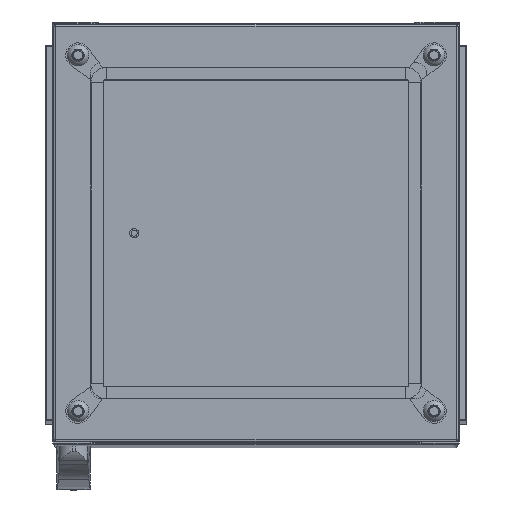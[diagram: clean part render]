
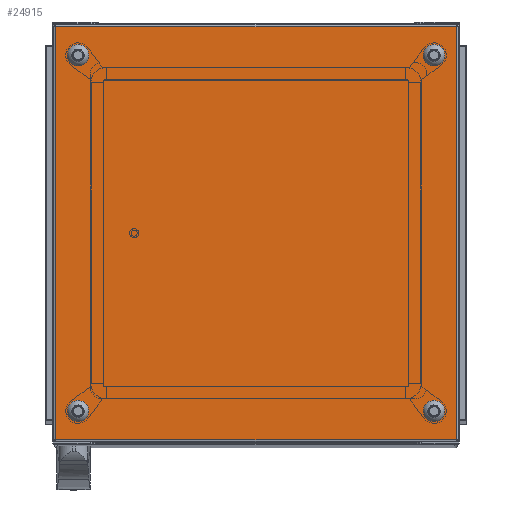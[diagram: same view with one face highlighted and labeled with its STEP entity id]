
A CAD part, top view. The second image highlights one B-rep face of the part: STEP entity #24915.
In plain terms, the highlighted planar face has unit normal (0, 0, 1).
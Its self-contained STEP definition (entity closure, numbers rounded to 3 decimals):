
#1263=CIRCLE('',#26808,6.);
#1264=CIRCLE('',#26809,6.);
#1265=CIRCLE('',#26810,6.);
#1266=CIRCLE('',#26811,6.);
#4891=ORIENTED_EDGE('',*,*,#10709,.F.);
#4892=ORIENTED_EDGE('',*,*,#10710,.F.);
#4893=ORIENTED_EDGE('',*,*,#10711,.F.);
#4894=ORIENTED_EDGE('',*,*,#10712,.F.);
#4895=ORIENTED_EDGE('',*,*,#10698,.T.);
#4896=ORIENTED_EDGE('',*,*,#10706,.T.);
#4897=ORIENTED_EDGE('',*,*,#10669,.F.);
#4898=ORIENTED_EDGE('',*,*,#10713,.F.);
#10669=EDGE_CURVE('',#13813,#13814,#16293,.T.);
#10698=EDGE_CURVE('',#13835,#13834,#16299,.T.);
#10706=EDGE_CURVE('',#13834,#13814,#16304,.T.);
#10709=EDGE_CURVE('',#13836,#13836,#1263,.T.);
#10710=EDGE_CURVE('',#13837,#13837,#1264,.T.);
#10711=EDGE_CURVE('',#13838,#13838,#1265,.T.);
#10712=EDGE_CURVE('',#13839,#13839,#1266,.T.);
#10713=EDGE_CURVE('',#13835,#13813,#16307,.T.);
#13813=VERTEX_POINT('',#39083);
#13814=VERTEX_POINT('',#39085);
#13834=VERTEX_POINT('',#39159);
#13835=VERTEX_POINT('',#39161);
#13836=VERTEX_POINT('',#39178);
#13837=VERTEX_POINT('',#39180);
#13838=VERTEX_POINT('',#39182);
#13839=VERTEX_POINT('',#39184);
#16293=LINE('',#39084,#18478);
#16299=LINE('',#39160,#18484);
#16304=LINE('',#39172,#18489);
#16307=LINE('',#39185,#18492);
#18478=VECTOR('',#31354,1000.);
#18484=VECTOR('',#31408,1000.);
#18489=VECTOR('',#31425,1000.);
#18492=VECTOR('',#31440,1000.);
#20361=EDGE_LOOP('',(#4891));
#20362=EDGE_LOOP('',(#4892));
#20363=EDGE_LOOP('',(#4893));
#20364=EDGE_LOOP('',(#4894));
#20365=EDGE_LOOP('',(#4895,#4896,#4897,#4898));
#22372=FACE_BOUND('',#20361,.T.);
#22373=FACE_BOUND('',#20362,.T.);
#22374=FACE_BOUND('',#20363,.T.);
#22375=FACE_BOUND('',#20364,.T.);
#22376=FACE_BOUND('',#20365,.T.);
#24040=PLANE('',#26807);
#24915=ADVANCED_FACE('',(#22372,#22373,#22374,#22375,#22376),#24040,.T.);
#26807=AXIS2_PLACEMENT_3D('',#39176,#31430,#31431);
#26808=AXIS2_PLACEMENT_3D('',#39177,#31432,#31433);
#26809=AXIS2_PLACEMENT_3D('',#39179,#31434,#31435);
#26810=AXIS2_PLACEMENT_3D('',#39181,#31436,#31437);
#26811=AXIS2_PLACEMENT_3D('',#39183,#31438,#31439);
#31354=DIRECTION('',(-1.,0.,0.));
#31408=DIRECTION('',(-1.,0.,0.));
#31425=DIRECTION('',(0.,-1.,0.));
#31430=DIRECTION('',(0.,0.,1.));
#31431=DIRECTION('',(1.,0.,0.));
#31432=DIRECTION('',(0.,0.,1.));
#31433=DIRECTION('',(1.,0.,0.));
#31434=DIRECTION('',(0.,0.,1.));
#31435=DIRECTION('',(1.,0.,0.));
#31436=DIRECTION('',(0.,0.,1.));
#31437=DIRECTION('',(1.,0.,0.));
#31438=DIRECTION('',(0.,0.,1.));
#31439=DIRECTION('',(1.,0.,0.));
#31440=DIRECTION('',(0.,-1.,0.));
#39083=CARTESIAN_POINT('',(196.5,-202.5,20.));
#39084=CARTESIAN_POINT('',(200.,-202.5,20.));
#39085=CARTESIAN_POINT('',(-196.5,-202.5,20.));
#39159=CARTESIAN_POINT('',(-196.5,202.5,20.));
#39160=CARTESIAN_POINT('',(200.,202.5,20.));
#39161=CARTESIAN_POINT('',(196.5,202.5,20.));
#39172=CARTESIAN_POINT('',(-196.5,205.5,20.));
#39176=CARTESIAN_POINT('',(-196.5,-202.5,20.));
#39177=CARTESIAN_POINT('',(174.5,-174.5,20.));
#39178=CARTESIAN_POINT('',(180.5,-174.5,20.));
#39179=CARTESIAN_POINT('',(-174.5,174.5,20.));
#39180=CARTESIAN_POINT('',(-168.5,174.5,20.));
#39181=CARTESIAN_POINT('',(174.5,174.5,20.));
#39182=CARTESIAN_POINT('',(180.5,174.5,20.));
#39183=CARTESIAN_POINT('',(-174.5,-174.5,20.));
#39184=CARTESIAN_POINT('',(-168.5,-174.5,20.));
#39185=CARTESIAN_POINT('',(196.5,205.5,20.));
